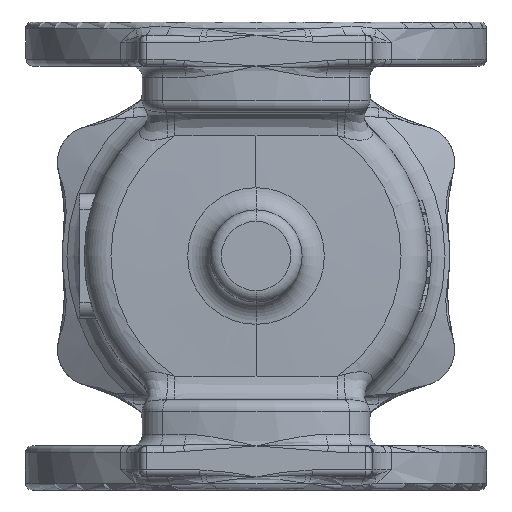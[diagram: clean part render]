
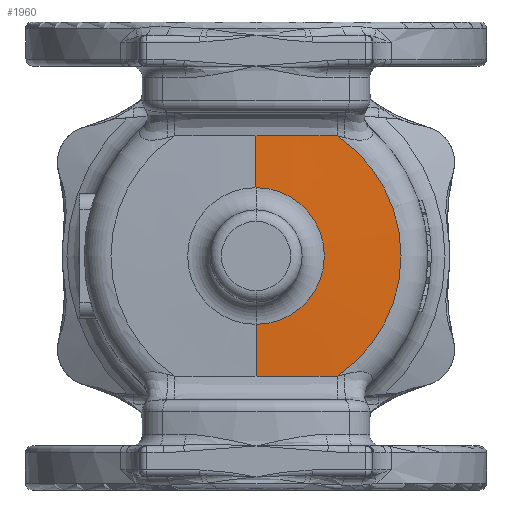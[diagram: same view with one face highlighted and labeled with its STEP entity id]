
A CAD part, front view. The second image highlights one B-rep face of the part: STEP entity #1960.
In plain terms, the highlighted conical face has half-angle 88 degrees and reference radius 74.5 mm.
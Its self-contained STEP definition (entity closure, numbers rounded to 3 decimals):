
#78 = FACE_OUTER_BOUND ( 'NONE', #29546, .T. ) ;
#620 = CARTESIAN_POINT ( 'NONE',  ( 35.259, -76.704, 52.111 ) ) ;
#911 = CARTESIAN_POINT ( 'NONE',  ( 29.383, -76.82, 52.096 ) ) ;
#1410 = VERTEX_POINT ( 'NONE', #620 ) ;
#1960 = ADVANCED_FACE ( 'Defeatured_0_281', ( #78 ), #26260, .T. ) ;
#1975 = LINE ( 'NONE', #35776, #29908 ) ;
#2011 = CARTESIAN_POINT ( 'NONE',  ( 35.259, -76.704, -52.111 ) ) ;
#2658 = ORIENTED_EDGE ( 'NONE', *, *, #31149, .F. ) ;
#4746 = CARTESIAN_POINT ( 'NONE',  ( 0., -77.084, -52.051 ) ) ;
#5031 = LINE ( 'NONE', #20330, #6289 ) ;
#5333 = CARTESIAN_POINT ( 'NONE',  ( 5.876, -77.084, -52.051 ) ) ;
#6289 = VECTOR ( 'NONE', #33727, 1000. ) ;
#9334 = B_SPLINE_CURVE_WITH_KNOTS ( 'NONE', 3,
 ( #28505, #911, #22660, #26100, #25705, #28908 ),
 .UNSPECIFIED., .F., .F.,
 ( 4, 2, 4 ),
 ( 0., 0.018, 0.035 ),
 .UNSPECIFIED. ) ;
#10817 = EDGE_CURVE ( 'NONE', #26095, #27562, #5031, .T. ) ;
#12575 = DIRECTION ( 'NONE',  ( 0., 1., 0. ) ) ;
#13520 = CIRCLE ( 'NONE', #27620, 29.647 ) ;
#13805 = ORIENTED_EDGE ( 'NONE', *, *, #25015, .T. ) ;
#14228 = CARTESIAN_POINT ( 'NONE',  ( 11.753, -77.048, -52.058 ) ) ;
#14719 = AXIS2_PLACEMENT_3D ( 'NONE', #21614, #12575, #39537 ) ;
#16432 = CIRCLE ( 'NONE', #26715, 62.919 ) ;
#17085 = VERTEX_POINT ( 'NONE', #35745 ) ;
#17741 = EDGE_CURVE ( 'Defeatured_0_281+Defeatured_0_246+Defeatured_0_274+Defeatured_0_285', #27562, #24556, #25768, .T. ) ;
#18583 = EDGE_CURVE ( 'Defeatured_0_281+Defeatured_0_235+Defeatured_0_285+Defeatured_0_274', #1410, #21141, #9334, .T. ) ;
#18669 = EDGE_CURVE ( 'Defeatured_0_281+Defeatured_0_285+Defeatured_0_246+Defeatured_0_235', #24556, #1410, #16432, .T. ) ;
#19656 = CARTESIAN_POINT ( 'NONE',  ( 0., -76.704, 0. ) ) ;
#20330 = CARTESIAN_POINT ( 'NONE',  ( 0., -76.3, -74.5 ) ) ;
#20922 = CARTESIAN_POINT ( 'NONE',  ( 0., -77.084, 52.051 ) ) ;
#21141 = VERTEX_POINT ( 'NONE', #20922 ) ;
#21614 = CARTESIAN_POINT ( 'NONE',  ( 0., -76.3, 0. ) ) ;
#21721 = ORIENTED_EDGE ( 'NONE', *, *, #10817, .T. ) ;
#22660 = CARTESIAN_POINT ( 'NONE',  ( 23.506, -76.916, 52.081 ) ) ;
#23081 = ORIENTED_EDGE ( 'NONE', *, *, #18669, .T. ) ;
#23494 = CARTESIAN_POINT ( 'NONE',  ( 0., -77.866, -29.647 ) ) ;
#24044 = CARTESIAN_POINT ( 'NONE',  ( 23.506, -76.916, -52.081 ) ) ;
#24556 = VERTEX_POINT ( 'NONE', #2011 ) ;
#24984 = ORIENTED_EDGE ( 'NONE', *, *, #17741, .T. ) ;
#25015 = EDGE_CURVE ( 'Defeatured_0_281+Defeatured_0_284+Defeatured_0_284+Defeatured_0_284', #17085, #26095, #13520, .T. ) ;
#25705 = CARTESIAN_POINT ( 'NONE',  ( 5.877, -77.084, 52.051 ) ) ;
#25768 = B_SPLINE_CURVE_WITH_KNOTS ( 'NONE', 3,
 ( #39332, #5333, #14228, #24044, #27076, #26486 ),
 .UNSPECIFIED., .F., .F.,
 ( 4, 2, 4 ),
 ( 0.035, 0.053, 0.071 ),
 .UNSPECIFIED. ) ;
#26095 = VERTEX_POINT ( 'NONE', #23494 ) ;
#26100 = CARTESIAN_POINT ( 'NONE',  ( 11.753, -77.048, 52.058 ) ) ;
#26260 = CONICAL_SURFACE ( 'NONE', #14719, 74.5, 1.536 ) ;
#26486 = CARTESIAN_POINT ( 'NONE',  ( 35.259, -76.704, -52.111 ) ) ;
#26715 = AXIS2_PLACEMENT_3D ( 'NONE', #19656, #37961, #31727 ) ;
#27076 = CARTESIAN_POINT ( 'NONE',  ( 29.383, -76.82, -52.096 ) ) ;
#27562 = VERTEX_POINT ( 'NONE', #4746 ) ;
#27620 = AXIS2_PLACEMENT_3D ( 'NONE', #31465, #38500, #38896 ) ;
#28505 = CARTESIAN_POINT ( 'NONE',  ( 35.259, -76.704, 52.111 ) ) ;
#28908 = CARTESIAN_POINT ( 'NONE',  ( 0., -77.084, 52.051 ) ) ;
#29546 = EDGE_LOOP ( 'NONE', ( #13805, #21721, #24984, #23081, #32051, #2658 ) ) ;
#29908 = VECTOR ( 'NONE', #32381, 1000. ) ;
#31149 = EDGE_CURVE ( 'NONE', #17085, #21141, #1975, .T. ) ;
#31465 = CARTESIAN_POINT ( 'NONE',  ( 0., -77.866, 0. ) ) ;
#31727 = DIRECTION ( 'NONE',  ( 0., 0., -1. ) ) ;
#32051 = ORIENTED_EDGE ( 'NONE', *, *, #18583, .T. ) ;
#32381 = DIRECTION ( 'NONE',  ( 0., 0.035, 0.999 ) ) ;
#33727 = DIRECTION ( 'NONE',  ( 0., 0.035, -0.999 ) ) ;
#35745 = CARTESIAN_POINT ( 'NONE',  ( 0., -77.866, 29.647 ) ) ;
#35776 = CARTESIAN_POINT ( 'NONE',  ( 0., -76.3, 74.5 ) ) ;
#37961 = DIRECTION ( 'NONE',  ( 0., -1., 0. ) ) ;
#38500 = DIRECTION ( 'NONE',  ( 0., 1., 0. ) ) ;
#38896 = DIRECTION ( 'NONE',  ( 0., 0., 1. ) ) ;
#39332 = CARTESIAN_POINT ( 'NONE',  ( 0., -77.084, -52.051 ) ) ;
#39537 = DIRECTION ( 'NONE',  ( 0., 0., 1. ) ) ;
